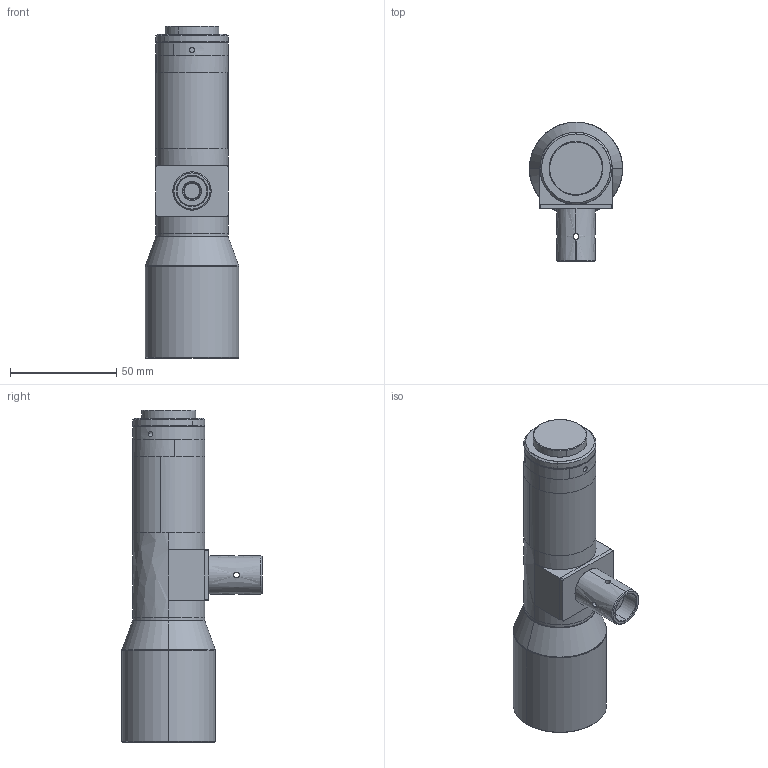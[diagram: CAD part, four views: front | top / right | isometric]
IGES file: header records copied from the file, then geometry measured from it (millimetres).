
Start section: SolidWorks IGES file using analytic representation for surfaces
Global section: file name: C:\Users\16255\Desktop\WWK08-110CP-111V3\楷諦誧3D芞\WWK08-110CP-111V3.IGS; native system: SolidWorks 2017; preprocessor: SolidWorks 2017; author: 16255; date: 230202.102838; units: millimetre
Bounding box: 44 x 66 x 156.47 mm (x, y, z)
Surface area: 25706.1 mm2 (no closed solid volume)
Topology: 0 solids, 0 shells, 108 faces, 2128 edges, 2128 vertices
Faces by surface type: revolution 76, bspline 32
